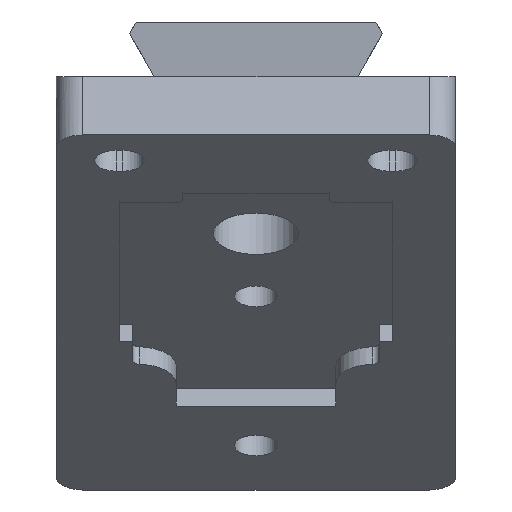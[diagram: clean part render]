
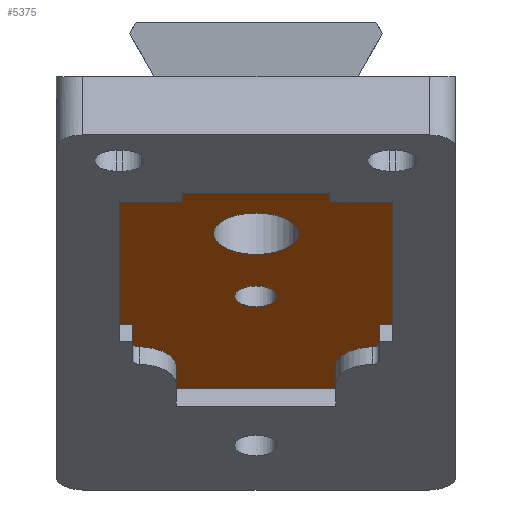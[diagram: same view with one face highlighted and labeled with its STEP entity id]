
A CAD part, left-side view. The second image highlights one B-rep face of the part: STEP entity #5375.
In plain terms, the highlighted planar face has unit normal (-0.485, 0, -0.875).
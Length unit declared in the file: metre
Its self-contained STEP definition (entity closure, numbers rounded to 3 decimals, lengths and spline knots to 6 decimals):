
#370=CIRCLE('',#5417,0.0016);
#372=CIRCLE('',#5420,0.0032);
#453=CIRCLE('',#5716,0.0005);
#454=CIRCLE('',#5717,0.003);
#455=CIRCLE('',#5718,0.003);
#456=CIRCLE('',#5719,0.0005);
#457=CIRCLE('',#5720,0.0005);
#458=CIRCLE('',#5721,0.0005);
#1965=ORIENTED_EDGE('',*,*,#2789,.T.);
#1966=ORIENTED_EDGE('',*,*,#2803,.T.);
#1967=ORIENTED_EDGE('',*,*,#2804,.T.);
#1968=ORIENTED_EDGE('',*,*,#2790,.T.);
#1969=ORIENTED_EDGE('',*,*,#2794,.T.);
#1970=ORIENTED_EDGE('',*,*,#2796,.F.);
#1971=ORIENTED_EDGE('',*,*,#2805,.T.);
#1972=ORIENTED_EDGE('',*,*,#2806,.T.);
#1973=ORIENTED_EDGE('',*,*,#2797,.F.);
#1974=ORIENTED_EDGE('',*,*,#2801,.F.);
#1975=ORIENTED_EDGE('',*,*,#2802,.T.);
#1976=ORIENTED_EDGE('',*,*,#2772,.F.);
#1977=ORIENTED_EDGE('',*,*,#2807,.T.);
#1978=ORIENTED_EDGE('',*,*,#2774,.T.);
#1979=ORIENTED_EDGE('',*,*,#2778,.T.);
#1980=ORIENTED_EDGE('',*,*,#2780,.F.);
#1981=ORIENTED_EDGE('',*,*,#2808,.T.);
#1982=ORIENTED_EDGE('',*,*,#2781,.F.);
#1983=ORIENTED_EDGE('',*,*,#2785,.F.);
#1984=ORIENTED_EDGE('',*,*,#2787,.F.);
#1985=ORIENTED_EDGE('',*,*,#2065,.F.);
#1986=ORIENTED_EDGE('',*,*,#2067,.F.);
#2065=EDGE_CURVE('',#2849,#2849,#370,.T.);
#2067=EDGE_CURVE('',#2851,#2851,#372,.T.);
#2772=EDGE_CURVE('',#3318,#3319,#3786,.T.);
#2774=EDGE_CURVE('',#3320,#3321,#3788,.T.);
#2778=EDGE_CURVE('',#3321,#3322,#3792,.T.);
#2780=EDGE_CURVE('',#3323,#3322,#3794,.T.);
#2781=EDGE_CURVE('',#3324,#3325,#3795,.T.);
#2785=EDGE_CURVE('',#3326,#3324,#3799,.T.);
#2787=EDGE_CURVE('',#3327,#3326,#3801,.T.);
#2789=EDGE_CURVE('',#3327,#3328,#3803,.T.);
#2790=EDGE_CURVE('',#3329,#3330,#3804,.T.);
#2794=EDGE_CURVE('',#3330,#3331,#3808,.T.);
#2796=EDGE_CURVE('',#3332,#3331,#3810,.T.);
#2797=EDGE_CURVE('',#3333,#3334,#3811,.T.);
#2801=EDGE_CURVE('',#3335,#3333,#3815,.T.);
#2802=EDGE_CURVE('',#3335,#3319,#3816,.T.);
#2803=EDGE_CURVE('',#3328,#3336,#453,.T.);
#2804=EDGE_CURVE('',#3336,#3329,#454,.F.);
#2805=EDGE_CURVE('',#3332,#3337,#455,.F.);
#2806=EDGE_CURVE('',#3337,#3334,#456,.T.);
#2807=EDGE_CURVE('',#3318,#3320,#457,.F.);
#2808=EDGE_CURVE('',#3323,#3325,#458,.F.);
#2849=VERTEX_POINT('',#6961);
#2851=VERTEX_POINT('',#6966);
#3318=VERTEX_POINT('',#9344);
#3319=VERTEX_POINT('',#9346);
#3320=VERTEX_POINT('',#9350);
#3321=VERTEX_POINT('',#9351);
#3322=VERTEX_POINT('',#9356);
#3323=VERTEX_POINT('',#9360);
#3324=VERTEX_POINT('',#9364);
#3325=VERTEX_POINT('',#9365);
#3326=VERTEX_POINT('',#9370);
#3327=VERTEX_POINT('',#9374);
#3328=VERTEX_POINT('',#9378);
#3329=VERTEX_POINT('',#9382);
#3330=VERTEX_POINT('',#9383);
#3331=VERTEX_POINT('',#9388);
#3332=VERTEX_POINT('',#9392);
#3333=VERTEX_POINT('',#9396);
#3334=VERTEX_POINT('',#9397);
#3335=VERTEX_POINT('',#9402);
#3336=VERTEX_POINT('',#9408);
#3337=VERTEX_POINT('',#9411);
#3786=LINE('',#9345,#4267);
#3788=LINE('',#9349,#4269);
#3792=LINE('',#9357,#4273);
#3794=LINE('',#9361,#4275);
#3795=LINE('',#9363,#4276);
#3799=LINE('',#9371,#4280);
#3801=LINE('',#9375,#4282);
#3803=LINE('',#9379,#4284);
#3804=LINE('',#9381,#4285);
#3808=LINE('',#9389,#4289);
#3810=LINE('',#9393,#4291);
#3811=LINE('',#9395,#4292);
#3815=LINE('',#9403,#4296);
#3816=LINE('',#9405,#4297);
#4267=VECTOR('',#6788,1.);
#4269=VECTOR('',#6792,1.);
#4273=VECTOR('',#6798,1.);
#4275=VECTOR('',#6802,1.);
#4276=VECTOR('',#6805,1.);
#4280=VECTOR('',#6811,1.);
#4282=VECTOR('',#6815,1.);
#4284=VECTOR('',#6819,1.);
#4285=VECTOR('',#6822,1.);
#4289=VECTOR('',#6828,1.);
#4291=VECTOR('',#6832,1.);
#4292=VECTOR('',#6835,1.);
#4296=VECTOR('',#6841,1.);
#4297=VECTOR('',#6844,1.);
#4614=EDGE_LOOP('',(#1965,#1966,#1967,#1968,#1969,#1970,#1971,#1972,#1973,
#1974,#1975,#1976,#1977,#1978,#1979,#1980,#1981,#1982,#1983,#1984));
#4615=EDGE_LOOP('',(#1985));
#4616=EDGE_LOOP('',(#1986));
#4941=FACE_BOUND('',#4614,.T.);
#4942=FACE_BOUND('',#4615,.T.);
#4943=FACE_BOUND('',#4616,.T.);
#5097=PLANE('',#5715);
#5375=ADVANCED_FACE('',(#4941,#4942,#4943),#5097,.T.);
#5417=AXIS2_PLACEMENT_3D('',#6960,#5792,#5793);
#5420=AXIS2_PLACEMENT_3D('',#6965,#5798,#5799);
#5715=AXIS2_PLACEMENT_3D('',#9406,#6845,#6846);
#5716=AXIS2_PLACEMENT_3D('',#9407,#6847,#6848);
#5717=AXIS2_PLACEMENT_3D('',#9409,#6849,#6850);
#5718=AXIS2_PLACEMENT_3D('',#9410,#6851,#6852);
#5719=AXIS2_PLACEMENT_3D('',#9412,#6853,#6854);
#5720=AXIS2_PLACEMENT_3D('',#9413,#6855,#6856);
#5721=AXIS2_PLACEMENT_3D('',#9414,#6857,#6858);
#5792=DIRECTION('',(-0.485,0.,-0.875));
#5793=DIRECTION('',(-0.875,0.,0.485));
#5798=DIRECTION('',(-0.485,0.,-0.875));
#5799=DIRECTION('',(-0.875,0.,0.485));
#6788=DIRECTION('',(0.,-1.,0.));
#6792=DIRECTION('',(-0.875,0.,0.485));
#6798=DIRECTION('',(0.,1.,0.));
#6802=DIRECTION('',(-0.875,0.,0.485));
#6805=DIRECTION('',(0.,-1.,0.));
#6811=DIRECTION('',(-0.875,0.,0.485));
#6815=DIRECTION('',(0.,1.,0.));
#6819=DIRECTION('',(0.875,0.,-0.485));
#6822=DIRECTION('',(0.875,0.,-0.485));
#6828=DIRECTION('',(0.,-1.,0.));
#6832=DIRECTION('',(0.875,0.,-0.485));
#6835=DIRECTION('',(0.875,0.,-0.485));
#6841=DIRECTION('',(0.,1.,0.));
#6844=DIRECTION('',(-0.875,0.,0.485));
#6845=DIRECTION('',(-0.485,0.,-0.875));
#6846=DIRECTION('',(0.875,0.,-0.485));
#6847=DIRECTION('',(-0.485,0.,-0.875));
#6848=DIRECTION('',(-0.875,0.,0.485));
#6849=DIRECTION('',(-0.485,0.,-0.875));
#6850=DIRECTION('',(-0.875,0.,0.485));
#6851=DIRECTION('',(-0.485,0.,-0.875));
#6852=DIRECTION('',(-0.875,0.,0.485));
#6853=DIRECTION('',(-0.485,0.,-0.875));
#6854=DIRECTION('',(-0.875,0.,0.485));
#6855=DIRECTION('',(-0.485,0.,-0.875));
#6856=DIRECTION('',(-0.875,0.,0.485));
#6857=DIRECTION('',(-0.485,0.,-0.875));
#6858=DIRECTION('',(-0.875,0.,0.485));
#6960=CARTESIAN_POINT('',(0.022524,0.,-0.016502));
#6961=CARTESIAN_POINT('',(0.021124,0.,-0.015726));
#6965=CARTESIAN_POINT('',(0.01404,0.,-0.011799));
#6966=CARTESIAN_POINT('',(0.011241,0.,-0.010248));
#9344=CARTESIAN_POINT('',(0.00748,-0.006,-0.008163));
#9345=CARTESIAN_POINT('',(0.00748,-0.007875,-0.008163));
#9346=CARTESIAN_POINT('',(0.00748,-0.01025,-0.008163));
#9349=CARTESIAN_POINT('',(0.006868,-0.0055,-0.007824));
#9350=CARTESIAN_POINT('',(0.007043,-0.0055,-0.007921));
#9351=CARTESIAN_POINT('',(0.006256,-0.0055,-0.007484));
#9356=CARTESIAN_POINT('',(0.006256,0.0055,-0.007484));
#9357=CARTESIAN_POINT('',(0.006256,0.,-0.007484));
#9360=CARTESIAN_POINT('',(0.007043,0.0055,-0.007921));
#9361=CARTESIAN_POINT('',(0.006868,0.0055,-0.007824));
#9363=CARTESIAN_POINT('',(0.00748,0.007875,-0.008163));
#9364=CARTESIAN_POINT('',(0.00748,0.01025,-0.008163));
#9365=CARTESIAN_POINT('',(0.00748,0.006,-0.008163));
#9370=CARTESIAN_POINT('',(0.026285,0.01025,-0.018586));
#9371=CARTESIAN_POINT('',(0.016883,0.01025,-0.013375));
#9374=CARTESIAN_POINT('',(0.026285,0.00925,-0.018586));
#9375=CARTESIAN_POINT('',(0.026285,0.00975,-0.018586));
#9378=CARTESIAN_POINT('',(0.028916,0.00925,-0.020045));
#9379=CARTESIAN_POINT('',(0.027815,0.00925,-0.019435));
#9381=CARTESIAN_POINT('',(0.032188,0.006,-0.021859));
#9382=CARTESIAN_POINT('',(0.03197,0.006,-0.021738));
#9383=CARTESIAN_POINT('',(0.035031,0.006,-0.023435));
#9388=CARTESIAN_POINT('',(0.035031,-0.006,-0.023435));
#9389=CARTESIAN_POINT('',(0.035031,0.,-0.023435));
#9392=CARTESIAN_POINT('',(0.03197,-0.006,-0.021738));
#9393=CARTESIAN_POINT('',(0.032188,-0.006,-0.021859));
#9395=CARTESIAN_POINT('',(0.027815,-0.00925,-0.019435));
#9396=CARTESIAN_POINT('',(0.026285,-0.00925,-0.018586));
#9397=CARTESIAN_POINT('',(0.028916,-0.00925,-0.020045));
#9402=CARTESIAN_POINT('',(0.026285,-0.01025,-0.018586));
#9403=CARTESIAN_POINT('',(0.026285,-0.00975,-0.018586));
#9405=CARTESIAN_POINT('',(0.020162,-0.01025,-0.015193));
#9406=CARTESIAN_POINT('',(0.022349,0.,-0.016405));
#9407=CARTESIAN_POINT('',(0.028916,0.00875,-0.020045));
#9408=CARTESIAN_POINT('',(0.029353,0.008786,-0.020287));
#9409=CARTESIAN_POINT('',(0.03197,0.009,-0.021738));
#9410=CARTESIAN_POINT('',(0.03197,-0.009,-0.021738));
#9411=CARTESIAN_POINT('',(0.029353,-0.008786,-0.020287));
#9412=CARTESIAN_POINT('',(0.028916,-0.00875,-0.020045));
#9413=CARTESIAN_POINT('',(0.007043,-0.006,-0.007921));
#9414=CARTESIAN_POINT('',(0.007043,0.006,-0.007921));
